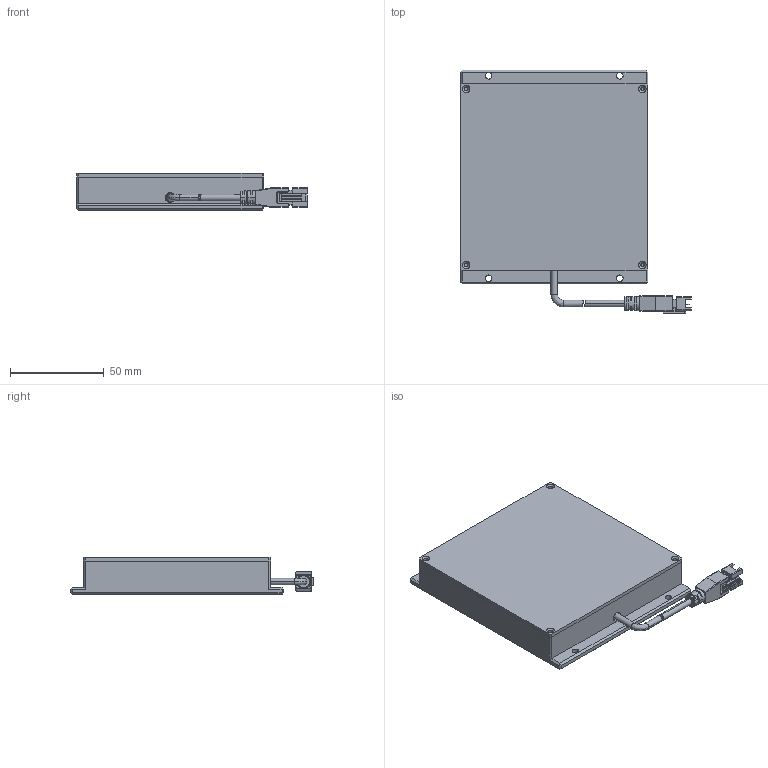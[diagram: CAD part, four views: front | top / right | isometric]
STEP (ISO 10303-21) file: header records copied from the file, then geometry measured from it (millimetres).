
FILE_DESCRIPTION (( 'STEP AP203' ), '1' );
FILE_NAME ('CRT-FLD9090-¼òÒ×3DÍ¼.STEP', '2021-11-24T01:21:31', ( 'Admin' ), ( '' ), 'SwSTEP 2.0', 'SolidWorks 2018', '' );
FILE_SCHEMA (( 'CONFIG_CONTROL_DESIGN' ));
Length unit declared in the file: millimetre
Products named in the file (1): CRT-FLD9090-潠眢3D芞
Bounding box: 123.23 x 129.95 x 20 mm (x, y, z)
Surface area: 34855.7 mm2 (no closed solid volume)
Topology: 0 solids, 4 shells, 263 faces, 728 edges, 461 vertices
Faces by surface type: plane 154, cylinder 76, bspline 15, cone 12, torus 6
Entity records: 8817 total; most frequent: CARTESIAN_POINT 2119, DIRECTION 1370, ORIENTED_EDGE 1333, EDGE_CURVE 724, VECTOR 474, LINE 474, VERTEX_POINT 461, AXIS2_PLACEMENT_3D 448
